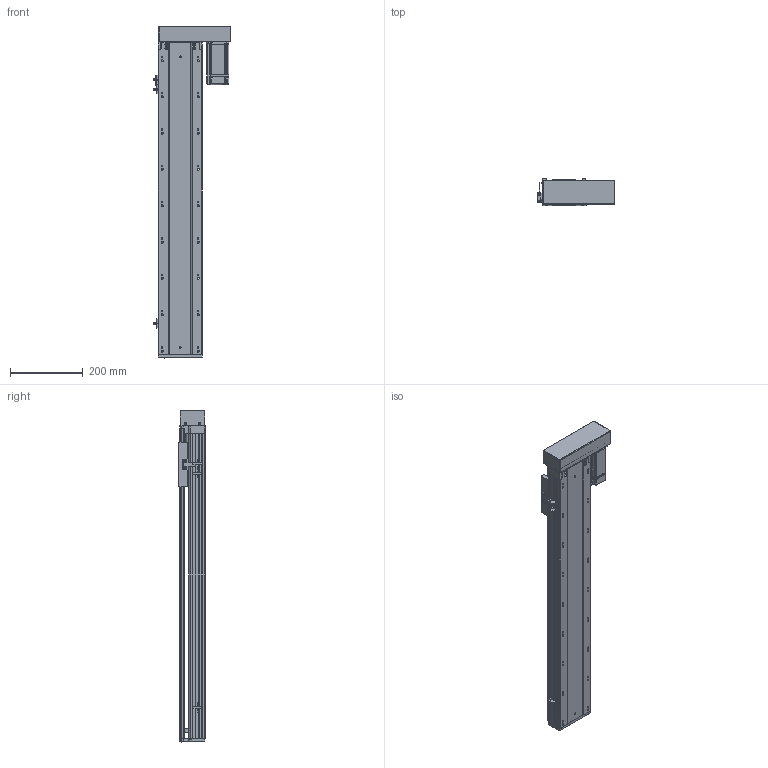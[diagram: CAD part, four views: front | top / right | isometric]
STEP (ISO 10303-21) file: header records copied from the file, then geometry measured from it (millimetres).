
FILE_DESCRIPTION (( 'STEP AP203' ), '1' );
FILE_NAME ('RY120-L1620-300-RK.SLDASM_650.step', '2021-02-22T02:30:04', ( '盈信电脑' ), ( '东莞市道滘镇水果街19号' ), 'SwSTEP 2.0', 'SolidWorks 2012', '' );
FILE_SCHEMA (( 'CONFIG_CONTROL_DESIGN' ));
Products named in the file (14): RY120外置感应片(140共用）; RY120酘殏萇儂假蚾啣; RY120转拆电端丝杆支撑座; 滅袉蝶18-10; RY120綴裔啣; 滅袉蝶18-24; 覜茼ん672; RY120-300-RK蛌殏倰第菁釱_650; RY120臏賑輸; RY120-300-RK蛌殏倰第奻裔啣_650; RY120蛌殏萇儂欶; 侂狟400W侜督萇儂; RY120-L1620-300-RK.SLDASM_650; 15
Assembly tree (16 placements, depth 3):
  RY120-L1620-300-RK.SLDASM_650
    RY120-300-RK蛌殏倰第菁釱_650
    RY120-300-RK蛌殏倰第奻裔啣_650
    RY120臏賑輸
    RY120綴裔啣
    覜茼ん672  x3
    滅袉蝶18-10
    滅袉蝶18-24  x2
    RY120外置感应片(140共用）
    RY120转拆电端丝杆支撑座
    RY120酘殏萇儂假蚾啣
    侂狟400W侜督萇儂
      15
    RY120蛌殏萇儂欶
Bounding box: 214.4 x 73 x 914 mm (x, y, z)
Volume: 2818366.6 mm3; surface area: 1012513.5 mm2
Topology: 16 solids, 16 shells, 2500 faces, 6899 edges, 4426 vertices
Faces by surface type: plane 1236, cylinder 948, cone 211, bspline 105
Entity records: 83430 total; most frequent: CARTESIAN_POINT 23827, ORIENTED_EDGE 12510, DIRECTION 11459, EDGE_CURVE 6255, VERTEX_POINT 4094, LINE 3829, VECTOR 3829, AXIS2_PLACEMENT_3D 3815
